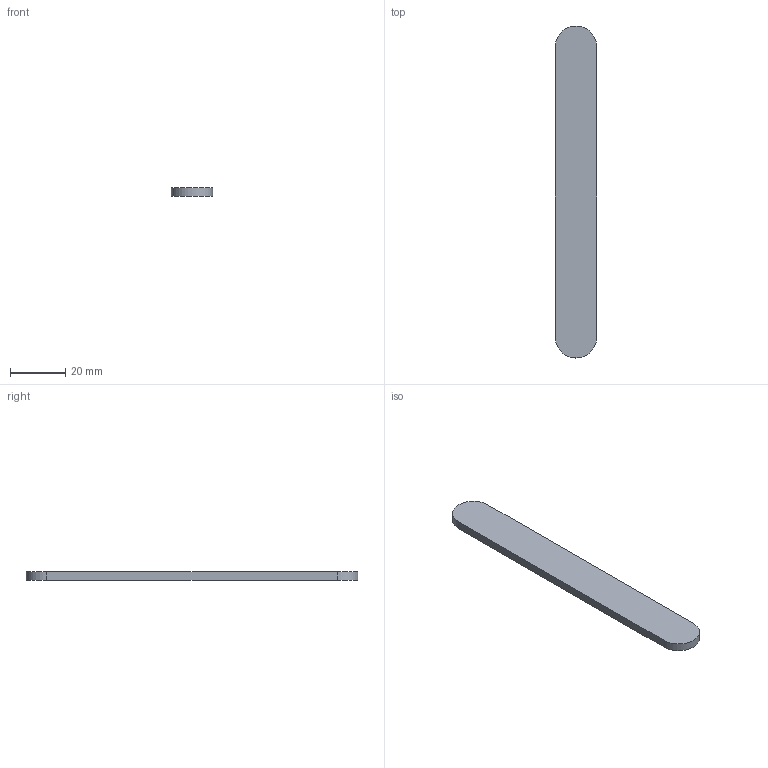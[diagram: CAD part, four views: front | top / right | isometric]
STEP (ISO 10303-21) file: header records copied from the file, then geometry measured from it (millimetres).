
FILE_DESCRIPTION(('FreeCAD Model'),'2;1');
FILE_NAME('/home/tiedemate/Dropbox/FreeCAD/Felgeneinsatz.step', '2016-09-19T22:20:35',('Author'),(''), 'Open CASCADE STEP processor 6.8','FreeCAD','Unknown');
FILE_SCHEMA(('AUTOMOTIVE_DESIGN_CC2 { 1 2 10303 214 -1 1 5 4 }'));
Length unit declared in the file: millimetre
Products named in the file (2): ASSEMBLY; Pad
Assembly tree (1 placements, depth 2):
  ASSEMBLY
    Pad
Bounding box: 15 x 120 x 3 mm (x, y, z)
Volume: 5255.1 mm3; surface area: 4274.8 mm2
Topology: 1 solids, 1 shells, 6 faces, 12 edges, 8 vertices
Faces by surface type: plane 4, cylinder 2
Entity records: 367 total; most frequent: CARTESIAN_POINT 76, DIRECTION 52, LINE 28, VECTOR 28, ORIENTED_EDGE 24, PCURVE 24, DEFINITIONAL_REPRESENTATION 24, AXIS2_PLACEMENT_3D 12
